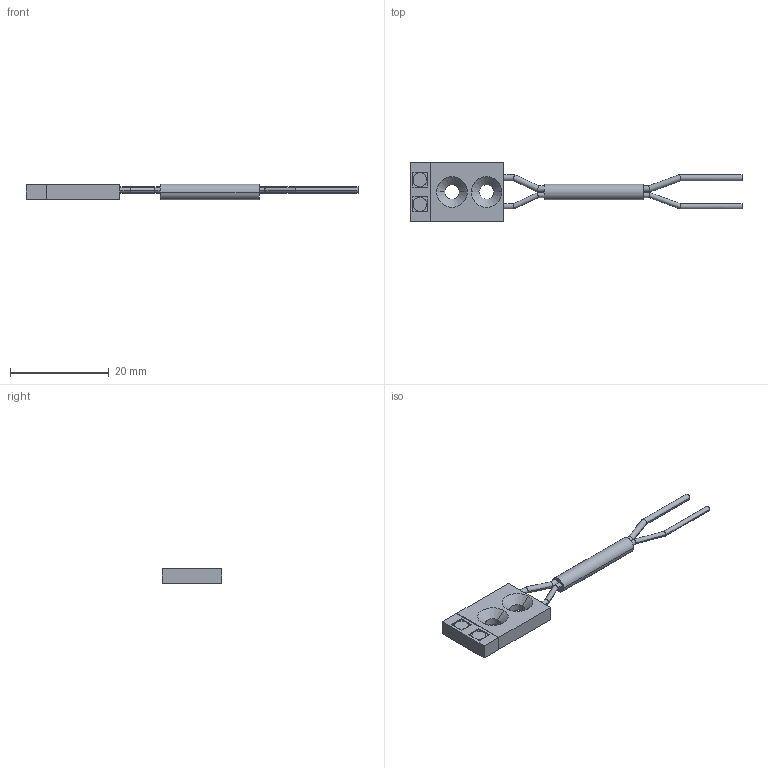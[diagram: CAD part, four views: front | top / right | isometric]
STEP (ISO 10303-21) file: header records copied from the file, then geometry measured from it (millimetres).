
FILE_DESCRIPTION (( 'STEP AP203' ), '1' );
FILE_NAME ('FD-L44.STEP', '2005-09-04T09:50:55', ( '川島良英' ), ( ' ' ), 'SwSTEP 2.0', 'SolidWorks 2004251', '' );
FILE_SCHEMA (( 'CONFIG_CONTROL_DESIGN' ));
Length unit declared in the file: millimetre
Products named in the file (1): FD-L44
Bounding box: 67.2 x 12 x 3.2 mm (x, y, z)
Volume: 825.8 mm3; surface area: 1090.4 mm2
Topology: 1 solids, 1 shells, 74 faces, 166 edges, 104 vertices
Faces by surface type: cylinder 36, plane 34, cone 4
Entity records: 2124 total; most frequent: CARTESIAN_POINT 396, DIRECTION 343, ORIENTED_EDGE 332, EDGE_CURVE 166, AXIS2_PLACEMENT_3D 119, VECTOR 105, LINE 105, VERTEX_POINT 104
